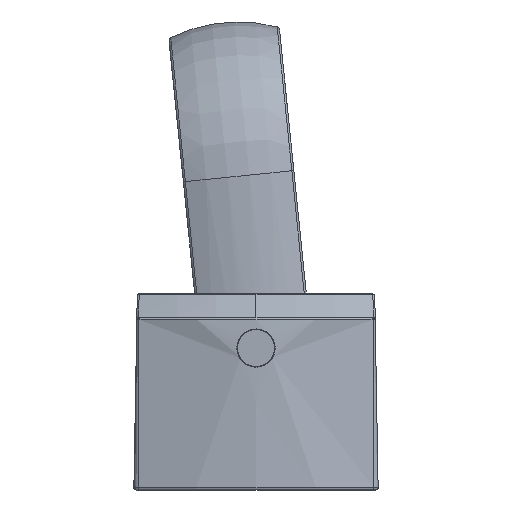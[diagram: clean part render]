
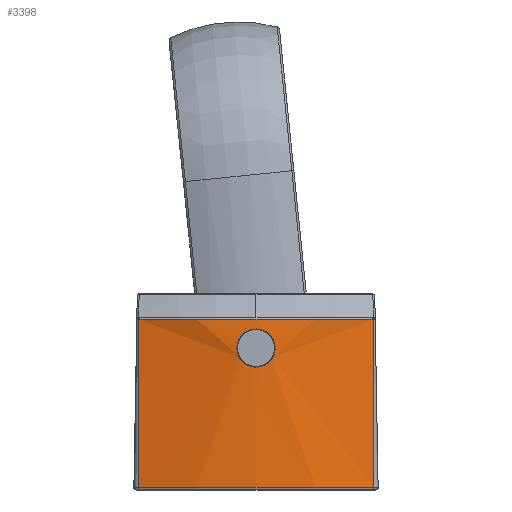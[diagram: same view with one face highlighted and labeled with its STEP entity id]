
A CAD part, left-side view. The second image highlights one B-rep face of the part: STEP entity #3398.
In plain terms, the highlighted conical face has half-angle 1 degrees and reference radius 30.094 mm.
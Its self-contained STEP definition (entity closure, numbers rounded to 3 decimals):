
#345 = DIRECTION ( 'NONE',  ( 0., 0., -1. ) ) ;
#1284 = DIRECTION ( 'NONE',  ( 0., 0., 1. ) ) ;
#1478 = CARTESIAN_POINT ( 'NONE',  ( -108.698, 8.452, 11.011 ) ) ;
#1572 = CARTESIAN_POINT ( 'NONE',  ( -78.831, 9.9, 0.203 ) ) ;
#1796 = CARTESIAN_POINT ( 'NONE',  ( -108.683, 8.679, 12.435 ) ) ;
#1904 = AXIS2_PLACEMENT_3D ( 'NONE', #11746, #9339, #11607 ) ;
#2349 = ORIENTED_EDGE ( 'NONE', *, *, #5739, .T. ) ;
#2378 = DIRECTION ( 'NONE',  ( -0.017, 0.006, -1. ) ) ;
#2409 = CARTESIAN_POINT ( 'NONE',  ( -108.689, 10.837, 12.719 ) ) ;
#2758 = VERTEX_POINT ( 'NONE', #12427 ) ;
#2913 = CARTESIAN_POINT ( 'NONE',  ( -78.831, 9.9, 13.817 ) ) ;
#3354 = EDGE_CURVE ( 'NONE', #2758, #15103, #26440, .T. ) ;
#3398 = ADVANCED_FACE ( 'NONE', ( #16292, #6641 ), #26013, .T. ) ;
#3453 = CARTESIAN_POINT ( 'NONE',  ( -108.751, 9.9, 9.975 ) ) ;
#3760 = CARTESIAN_POINT ( 'NONE',  ( -108.748, 9.503, 10.014 ) ) ;
#3882 = CARTESIAN_POINT ( 'NONE',  ( -108.751, 9.9, 9.975 ) ) ;
#5128 = CARTESIAN_POINT ( 'NONE',  ( -108.682, 11.223, 12.265 ) ) ;
#5431 = CARTESIAN_POINT ( 'NONE',  ( -107.363, 0.342, 0.203 ) ) ;
#5739 = EDGE_CURVE ( 'NONE', #8647, #13203, #25683, .T. ) ;
#6033 = CARTESIAN_POINT ( 'NONE',  ( -108.695, 8.424, 11.104 ) ) ;
#6201 = CARTESIAN_POINT ( 'NONE',  ( -108.681, 11.27, 12.177 ) ) ;
#6641 = FACE_OUTER_BOUND ( 'NONE', #26897, .T. ) ;
#6661 = CARTESIAN_POINT ( 'NONE',  ( -108.682, 11.425, 11.702 ) ) ;
#6807 = CARTESIAN_POINT ( 'NONE',  ( -108.741, 10.575, 10.129 ) ) ;
#8647 = VERTEX_POINT ( 'NONE', #14582 ) ;
#8827 = CARTESIAN_POINT ( 'NONE',  ( -107.138, 0.418, 13.817 ) ) ;
#8927 = CARTESIAN_POINT ( 'NONE',  ( -108.694, 11.386, 11.102 ) ) ;
#9200 = CARTESIAN_POINT ( 'NONE',  ( -107.138, 19.382, 13.817 ) ) ;
#9339 = DIRECTION ( 'NONE',  ( 0., 0., -1. ) ) ;
#9663 = CARTESIAN_POINT ( 'NONE',  ( -108.696, 10.3, 12.985 ) ) ;
#9998 = LINE ( 'NONE', #28877, #13246 ) ;
#10564 = CARTESIAN_POINT ( 'NONE',  ( -108.681, 8.423, 11.895 ) ) ;
#10703 = CARTESIAN_POINT ( 'NONE',  ( -108.681, 8.568, 12.27 ) ) ;
#10724 = CARTESIAN_POINT ( 'NONE',  ( -108.716, 11.121, 10.564 ) ) ;
#10746 = B_SPLINE_CURVE_WITH_KNOTS ( 'NONE', 3,
 ( #27509, #22672, #11185, #6807, #29624, #27365, #17700, #10724, #19933, #8927, #26908, #6661, #13599, #6201, #5128, #27809, #16311, #2409, #11937, #9663, #21284, #13753 ),
 .UNSPECIFIED., .F., .F.,
 ( 4, 2, 2, 2, 2, 2, 2, 2, 2, 2, 4 ),
 ( 0., 0.125, 0.188, 0.25, 0.375, 0.5, 0.625, 0.688, 0.75, 0.875, 1. ),
 .UNSPECIFIED. ) ;
#11185 = CARTESIAN_POINT ( 'NONE',  ( -108.748, 10.3, 10.015 ) ) ;
#11459 = CARTESIAN_POINT ( 'NONE',  ( -107.367, 19.459, 0. ) ) ;
#11607 = DIRECTION ( 'NONE',  ( 1., 0., 0. ) ) ;
#11746 = CARTESIAN_POINT ( 'NONE',  ( -78.831, 9.9, 0. ) ) ;
#11937 = CARTESIAN_POINT ( 'NONE',  ( -108.692, 10.667, 12.833 ) ) ;
#12427 = CARTESIAN_POINT ( 'NONE',  ( -108.698, 9.9, 13.025 ) ) ;
#12511 = CIRCLE ( 'NONE', #18328, 29.853 ) ;
#12697 = DIRECTION ( 'NONE',  ( -0.017, -0.006, -1. ) ) ;
#12708 = EDGE_CURVE ( 'NONE', #20880, #13203, #9998, .T. ) ;
#12829 = EDGE_CURVE ( 'NONE', #15103, #2758, #10746, .T. ) ;
#13129 = CARTESIAN_POINT ( 'NONE',  ( -108.698, 9.698, 13.025 ) ) ;
#13203 = VERTEX_POINT ( 'NONE', #5431 ) ;
#13246 = VECTOR ( 'NONE', #12697, 1000. ) ;
#13531 = VERTEX_POINT ( 'NONE', #9200 ) ;
#13599 = CARTESIAN_POINT ( 'NONE',  ( -108.68, 11.386, 11.897 ) ) ;
#13753 = CARTESIAN_POINT ( 'NONE',  ( -108.698, 9.9, 13.025 ) ) ;
#14582 = CARTESIAN_POINT ( 'NONE',  ( -107.363, 19.458, 0.203 ) ) ;
#15103 = VERTEX_POINT ( 'NONE', #3882 ) ;
#15250 = CARTESIAN_POINT ( 'NONE',  ( -108.716, 8.679, 10.564 ) ) ;
#15390 = CARTESIAN_POINT ( 'NONE',  ( -108.696, 9.504, 12.986 ) ) ;
#15699 = CARTESIAN_POINT ( 'NONE',  ( -108.687, 8.375, 11.401 ) ) ;
#16292 = FACE_BOUND ( 'NONE', #24809, .T. ) ;
#16311 = CARTESIAN_POINT ( 'NONE',  ( -108.685, 11.048, 12.508 ) ) ;
#17371 = CARTESIAN_POINT ( 'NONE',  ( -108.684, 8.375, 11.599 ) ) ;
#17515 = CARTESIAN_POINT ( 'NONE',  ( -108.682, 8.385, 11.7 ) ) ;
#17700 = CARTESIAN_POINT ( 'NONE',  ( -108.727, 10.906, 10.35 ) ) ;
#18328 = AXIS2_PLACEMENT_3D ( 'NONE', #2913, #345, #18645 ) ;
#18645 = DIRECTION ( 'NONE',  ( -1., 0., 0. ) ) ;
#19469 = VECTOR ( 'NONE', #2378, 1000. ) ;
#19631 = CARTESIAN_POINT ( 'NONE',  ( -108.698, 9.9, 13.025 ) ) ;
#19914 = CARTESIAN_POINT ( 'NONE',  ( -108.708, 8.568, 10.73 ) ) ;
#19933 = CARTESIAN_POINT ( 'NONE',  ( -108.708, 11.231, 10.729 ) ) ;
#20019 = DIRECTION ( 'NONE',  ( 1., 0., 0. ) ) ;
#20880 = VERTEX_POINT ( 'NONE', #8827 ) ;
#21284 = CARTESIAN_POINT ( 'NONE',  ( -108.698, 10.099, 13.025 ) ) ;
#21818 = AXIS2_PLACEMENT_3D ( 'NONE', #1572, #1284, #20019 ) ;
#22044 = CARTESIAN_POINT ( 'NONE',  ( -108.681, 8.452, 11.99 ) ) ;
#22188 = CARTESIAN_POINT ( 'NONE',  ( -108.738, 9.13, 10.168 ) ) ;
#22672 = CARTESIAN_POINT ( 'NONE',  ( -108.751, 10.099, 9.975 ) ) ;
#23731 = ORIENTED_EDGE ( 'NONE', *, *, #12829, .T. ) ;
#24465 = CARTESIAN_POINT ( 'NONE',  ( -108.731, 8.965, 10.278 ) ) ;
#24609 = CARTESIAN_POINT ( 'NONE',  ( -108.751, 9.698, 9.975 ) ) ;
#24747 = CARTESIAN_POINT ( 'NONE',  ( -108.689, 8.965, 12.721 ) ) ;
#24809 = EDGE_LOOP ( 'NONE', ( #23731, #26932 ) ) ;
#25198 = LINE ( 'NONE', #11459, #19469 ) ;
#25683 = CIRCLE ( 'NONE', #21818, 30.091 ) ;
#26013 = CONICAL_SURFACE ( 'NONE', #1904, 30.094, 0.017 ) ;
#26240 = EDGE_CURVE ( 'NONE', #20880, #13531, #12511, .T. ) ;
#26440 = B_SPLINE_CURVE_WITH_KNOTS ( 'NONE', 3,
 ( #19631, #13129, #15390, #26889, #24747, #1796, #10703, #22044, #10564, #17515, #17371, #15699, #26731, #6033, #1478, #19914, #15250, #24465, #22188, #3760, #24609, #3453 ),
 .UNSPECIFIED., .F., .F.,
 ( 4, 2, 2, 2, 2, 2, 2, 2, 2, 2, 4 ),
 ( 0., 0.125, 0.25, 0.375, 0.437, 0.5, 0.562, 0.625, 0.75, 0.875, 1. ),
 .UNSPECIFIED. ) ;
#26731 = CARTESIAN_POINT ( 'NONE',  ( -108.689, 8.385, 11.301 ) ) ;
#26889 = CARTESIAN_POINT ( 'NONE',  ( -108.692, 9.13, 12.832 ) ) ;
#26897 = EDGE_LOOP ( 'NONE', ( #28907, #2349, #29514, #27130 ) ) ;
#26908 = CARTESIAN_POINT ( 'NONE',  ( -108.689, 11.425, 11.297 ) ) ;
#26932 = ORIENTED_EDGE ( 'NONE', *, *, #3354, .T. ) ;
#27130 = ORIENTED_EDGE ( 'NONE', *, *, #26240, .T. ) ;
#27365 = CARTESIAN_POINT ( 'NONE',  ( -108.731, 10.83, 10.288 ) ) ;
#27509 = CARTESIAN_POINT ( 'NONE',  ( -108.751, 9.9, 9.975 ) ) ;
#27809 = CARTESIAN_POINT ( 'NONE',  ( -108.683, 11.113, 12.43 ) ) ;
#28877 = CARTESIAN_POINT ( 'NONE',  ( -107.367, 0.341, 0. ) ) ;
#28907 = ORIENTED_EDGE ( 'NONE', *, *, #29243, .T. ) ;
#29243 = EDGE_CURVE ( 'NONE', #13531, #8647, #25198, .T. ) ;
#29514 = ORIENTED_EDGE ( 'NONE', *, *, #12708, .F. ) ;
#29624 = CARTESIAN_POINT ( 'NONE',  ( -108.738, 10.663, 10.176 ) ) ;
